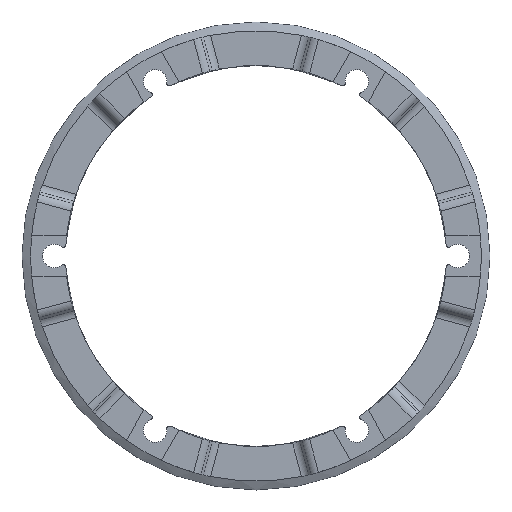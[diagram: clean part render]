
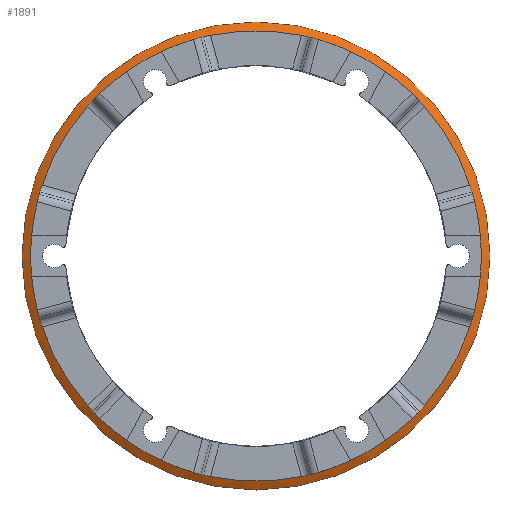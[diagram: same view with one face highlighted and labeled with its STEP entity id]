
A CAD part, top view. The second image highlights one B-rep face of the part: STEP entity #1891.
In plain terms, the highlighted conical face has half-angle 63.435 degrees and reference radius 38.5 mm.
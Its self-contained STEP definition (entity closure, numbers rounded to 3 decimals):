
#12=CONICAL_SURFACE('',#2108,38.5,1.107);
#146=CIRCLE('',#1998,38.5);
#153=CIRCLE('',#2006,38.5);
#154=CIRCLE('',#2008,38.5);
#161=CIRCLE('',#2016,38.5);
#162=CIRCLE('',#2018,38.5);
#169=CIRCLE('',#2026,38.5);
#170=CIRCLE('',#2028,38.5);
#177=CIRCLE('',#2036,38.5);
#178=CIRCLE('',#2038,38.5);
#184=CIRCLE('',#2045,38.5);
#187=CIRCLE('',#2049,38.5);
#188=CIRCLE('',#2051,38.5);
#229=CIRCLE('',#2109,40.);
#230=CIRCLE('',#2110,38.5);
#231=CIRCLE('',#2111,38.5);
#232=CIRCLE('',#2112,38.5);
#233=CIRCLE('',#2113,38.5);
#234=CIRCLE('',#2114,38.5);
#235=CIRCLE('',#2115,38.5);
#236=CIRCLE('',#2116,38.5);
#237=CIRCLE('',#2117,38.5);
#238=CIRCLE('',#2118,38.5);
#239=CIRCLE('',#2119,38.5);
#240=CIRCLE('',#2120,38.5);
#241=CIRCLE('',#2121,38.5);
#433=ORIENTED_EDGE('',*,*,#1017,.F.);
#434=ORIENTED_EDGE('',*,*,#1018,.T.);
#435=ORIENTED_EDGE('',*,*,#925,.T.);
#436=ORIENTED_EDGE('',*,*,#1019,.F.);
#437=ORIENTED_EDGE('',*,*,#922,.T.);
#438=ORIENTED_EDGE('',*,*,#1020,.T.);
#439=ORIENTED_EDGE('',*,*,#861,.T.);
#440=ORIENTED_EDGE('',*,*,#1021,.T.);
#441=ORIENTED_EDGE('',*,*,#870,.T.);
#442=ORIENTED_EDGE('',*,*,#1022,.T.);
#443=ORIENTED_EDGE('',*,*,#873,.T.);
#444=ORIENTED_EDGE('',*,*,#1023,.T.);
#445=ORIENTED_EDGE('',*,*,#882,.T.);
#446=ORIENTED_EDGE('',*,*,#1024,.T.);
#447=ORIENTED_EDGE('',*,*,#885,.T.);
#448=ORIENTED_EDGE('',*,*,#1025,.T.);
#449=ORIENTED_EDGE('',*,*,#894,.T.);
#450=ORIENTED_EDGE('',*,*,#1026,.T.);
#451=ORIENTED_EDGE('',*,*,#897,.T.);
#452=ORIENTED_EDGE('',*,*,#1027,.T.);
#453=ORIENTED_EDGE('',*,*,#906,.T.);
#454=ORIENTED_EDGE('',*,*,#1028,.T.);
#455=ORIENTED_EDGE('',*,*,#909,.T.);
#456=ORIENTED_EDGE('',*,*,#1029,.T.);
#457=ORIENTED_EDGE('',*,*,#916,.T.);
#861=EDGE_CURVE('',#1164,#1162,#146,.T.);
#870=EDGE_CURVE('',#1173,#1172,#153,.T.);
#873=EDGE_CURVE('',#1176,#1174,#154,.T.);
#882=EDGE_CURVE('',#1185,#1184,#161,.T.);
#885=EDGE_CURVE('',#1188,#1186,#162,.T.);
#894=EDGE_CURVE('',#1197,#1196,#169,.T.);
#897=EDGE_CURVE('',#1200,#1198,#170,.T.);
#906=EDGE_CURVE('',#1209,#1208,#177,.T.);
#909=EDGE_CURVE('',#1212,#1210,#178,.T.);
#916=EDGE_CURVE('',#1218,#1219,#184,.T.);
#922=EDGE_CURVE('',#1225,#1224,#187,.T.);
#925=EDGE_CURVE('',#1228,#1226,#188,.T.);
#1017=EDGE_CURVE('',#1299,#1299,#229,.T.);
#1018=EDGE_CURVE('',#1219,#1228,#230,.T.);
#1019=EDGE_CURVE('',#1225,#1226,#231,.T.);
#1020=EDGE_CURVE('',#1224,#1164,#232,.T.);
#1021=EDGE_CURVE('',#1162,#1173,#233,.T.);
#1022=EDGE_CURVE('',#1172,#1176,#234,.T.);
#1023=EDGE_CURVE('',#1174,#1185,#235,.T.);
#1024=EDGE_CURVE('',#1184,#1188,#236,.T.);
#1025=EDGE_CURVE('',#1186,#1197,#237,.T.);
#1026=EDGE_CURVE('',#1196,#1200,#238,.T.);
#1027=EDGE_CURVE('',#1198,#1209,#239,.T.);
#1028=EDGE_CURVE('',#1208,#1212,#240,.T.);
#1029=EDGE_CURVE('',#1210,#1218,#241,.T.);
#1162=VERTEX_POINT('',#2857);
#1164=VERTEX_POINT('',#2860);
#1172=VERTEX_POINT('',#2877);
#1173=VERTEX_POINT('',#2879);
#1174=VERTEX_POINT('',#2883);
#1176=VERTEX_POINT('',#2886);
#1184=VERTEX_POINT('',#2903);
#1185=VERTEX_POINT('',#2905);
#1186=VERTEX_POINT('',#2909);
#1188=VERTEX_POINT('',#2912);
#1196=VERTEX_POINT('',#2929);
#1197=VERTEX_POINT('',#2931);
#1198=VERTEX_POINT('',#2935);
#1200=VERTEX_POINT('',#2938);
#1208=VERTEX_POINT('',#2955);
#1209=VERTEX_POINT('',#2957);
#1210=VERTEX_POINT('',#2961);
#1212=VERTEX_POINT('',#2964);
#1218=VERTEX_POINT('',#2978);
#1219=VERTEX_POINT('',#2979);
#1224=VERTEX_POINT('',#2990);
#1225=VERTEX_POINT('',#2992);
#1226=VERTEX_POINT('',#2996);
#1228=VERTEX_POINT('',#2999);
#1299=VERTEX_POINT('',#3229);
#1615=EDGE_LOOP('',(#433));
#1616=EDGE_LOOP('',(#434,#435,#436,#437,#438,#439,#440,#441,#442,#443,#444,
#445,#446,#447,#448,#449,#450,#451,#452,#453,#454,#455,#456,#457));
#1729=FACE_BOUND('',#1615,.T.);
#1730=FACE_BOUND('',#1616,.T.);
#1891=ADVANCED_FACE('',(#1729,#1730),#12,.T.);
#1998=AXIS2_PLACEMENT_3D('',#2859,#2247,#2248);
#2006=AXIS2_PLACEMENT_3D('',#2878,#2265,#2266);
#2008=AXIS2_PLACEMENT_3D('',#2885,#2271,#2272);
#2016=AXIS2_PLACEMENT_3D('',#2904,#2289,#2290);
#2018=AXIS2_PLACEMENT_3D('',#2911,#2295,#2296);
#2026=AXIS2_PLACEMENT_3D('',#2930,#2313,#2314);
#2028=AXIS2_PLACEMENT_3D('',#2937,#2319,#2320);
#2036=AXIS2_PLACEMENT_3D('',#2956,#2337,#2338);
#2038=AXIS2_PLACEMENT_3D('',#2963,#2343,#2344);
#2045=AXIS2_PLACEMENT_3D('',#2977,#2358,#2359);
#2049=AXIS2_PLACEMENT_3D('',#2991,#2369,#2370);
#2051=AXIS2_PLACEMENT_3D('',#2998,#2375,#2376);
#2108=AXIS2_PLACEMENT_3D('',#3227,#2510,#2511);
#2109=AXIS2_PLACEMENT_3D('',#3228,#2512,#2513);
#2110=AXIS2_PLACEMENT_3D('',#3230,#2514,#2515);
#2111=AXIS2_PLACEMENT_3D('',#3231,#2516,#2517);
#2112=AXIS2_PLACEMENT_3D('',#3232,#2518,#2519);
#2113=AXIS2_PLACEMENT_3D('',#3233,#2520,#2521);
#2114=AXIS2_PLACEMENT_3D('',#3234,#2522,#2523);
#2115=AXIS2_PLACEMENT_3D('',#3235,#2524,#2525);
#2116=AXIS2_PLACEMENT_3D('',#3236,#2526,#2527);
#2117=AXIS2_PLACEMENT_3D('',#3237,#2528,#2529);
#2118=AXIS2_PLACEMENT_3D('',#3238,#2530,#2531);
#2119=AXIS2_PLACEMENT_3D('',#3239,#2532,#2533);
#2120=AXIS2_PLACEMENT_3D('',#3240,#2534,#2535);
#2121=AXIS2_PLACEMENT_3D('',#3241,#2536,#2537);
#2247=DIRECTION('',(0.,0.,-1.));
#2248=DIRECTION('',(-1.,0.,0.));
#2265=DIRECTION('',(0.,0.,-1.));
#2266=DIRECTION('',(-1.,0.,0.));
#2271=DIRECTION('',(0.,0.,-1.));
#2272=DIRECTION('',(-1.,0.,0.));
#2289=DIRECTION('',(0.,0.,-1.));
#2290=DIRECTION('',(-1.,0.,0.));
#2295=DIRECTION('',(0.,0.,-1.));
#2296=DIRECTION('',(-1.,0.,0.));
#2313=DIRECTION('',(0.,0.,-1.));
#2314=DIRECTION('',(-1.,0.,0.));
#2319=DIRECTION('',(0.,0.,-1.));
#2320=DIRECTION('',(-1.,0.,0.));
#2337=DIRECTION('',(0.,0.,-1.));
#2338=DIRECTION('',(-1.,0.,0.));
#2343=DIRECTION('',(0.,0.,-1.));
#2344=DIRECTION('',(-1.,0.,0.));
#2358=DIRECTION('',(0.,0.,-1.));
#2359=DIRECTION('',(-1.,0.,0.));
#2369=DIRECTION('',(0.,0.,-1.));
#2370=DIRECTION('',(-1.,0.,0.));
#2375=DIRECTION('',(0.,0.,-1.));
#2376=DIRECTION('',(-1.,0.,0.));
#2510=DIRECTION('',(0.,0.,-1.));
#2511=DIRECTION('',(-1.,0.,0.));
#2512=DIRECTION('',(0.,0.,-1.));
#2513=DIRECTION('',(-1.,0.,0.));
#2514=DIRECTION('',(0.,0.,-1.));
#2515=DIRECTION('',(-1.,0.,0.));
#2516=DIRECTION('',(0.,0.,1.));
#2517=DIRECTION('',(-1.,0.,0.));
#2518=DIRECTION('',(0.,0.,-1.));
#2519=DIRECTION('',(-1.,0.,0.));
#2520=DIRECTION('',(0.,0.,-1.));
#2521=DIRECTION('',(-1.,0.,0.));
#2522=DIRECTION('',(0.,0.,-1.));
#2523=DIRECTION('',(-1.,0.,0.));
#2524=DIRECTION('',(0.,0.,-1.));
#2525=DIRECTION('',(-1.,0.,0.));
#2526=DIRECTION('',(0.,0.,-1.));
#2527=DIRECTION('',(-1.,0.,0.));
#2528=DIRECTION('',(0.,0.,-1.));
#2529=DIRECTION('',(-1.,0.,0.));
#2530=DIRECTION('',(0.,0.,-1.));
#2531=DIRECTION('',(-1.,0.,0.));
#2532=DIRECTION('',(0.,0.,-1.));
#2533=DIRECTION('',(-1.,0.,0.));
#2534=DIRECTION('',(0.,0.,-1.));
#2535=DIRECTION('',(-1.,0.,0.));
#2536=DIRECTION('',(0.,0.,-1.));
#2537=DIRECTION('',(-1.,0.,0.));
#2857=CARTESIAN_POINT('',(16.185,-34.933,1.5));
#2859=CARTESIAN_POINT('',(0.,0.,1.5));
#2860=CARTESIAN_POINT('',(22.16,-31.483,1.5));
#2877=CARTESIAN_POINT('',(-7.779,-37.706,1.5));
#2878=CARTESIAN_POINT('',(0.,0.,1.5));
#2879=CARTESIAN_POINT('',(7.779,-37.706,1.5));
#2883=CARTESIAN_POINT('',(-22.16,-31.483,1.5));
#2885=CARTESIAN_POINT('',(0.,0.,1.5));
#2886=CARTESIAN_POINT('',(-16.185,-34.933,1.5));
#2903=CARTESIAN_POINT('',(-36.544,-12.117,1.5));
#2904=CARTESIAN_POINT('',(0.,0.,1.5));
#2905=CARTESIAN_POINT('',(-28.765,-25.589,1.5));
#2909=CARTESIAN_POINT('',(-38.345,3.45,1.5));
#2911=CARTESIAN_POINT('',(0.,0.,1.5));
#2912=CARTESIAN_POINT('',(-38.345,-3.45,1.5));
#2929=CARTESIAN_POINT('',(-28.765,25.589,1.5));
#2930=CARTESIAN_POINT('',(0.,0.,1.5));
#2931=CARTESIAN_POINT('',(-36.544,12.117,1.5));
#2935=CARTESIAN_POINT('',(-16.185,34.933,1.5));
#2937=CARTESIAN_POINT('',(0.,0.,1.5));
#2938=CARTESIAN_POINT('',(-22.16,31.483,1.5));
#2955=CARTESIAN_POINT('',(7.779,37.706,1.5));
#2956=CARTESIAN_POINT('',(0.,0.,1.5));
#2957=CARTESIAN_POINT('',(-7.779,37.706,1.5));
#2961=CARTESIAN_POINT('',(22.16,31.483,1.5));
#2963=CARTESIAN_POINT('',(0.,0.,1.5));
#2964=CARTESIAN_POINT('',(16.185,34.933,1.5));
#2977=CARTESIAN_POINT('',(0.,0.,1.5));
#2978=CARTESIAN_POINT('',(28.765,25.589,1.5));
#2979=CARTESIAN_POINT('',(36.544,12.117,1.5));
#2990=CARTESIAN_POINT('',(28.765,-25.589,1.5));
#2991=CARTESIAN_POINT('',(0.,0.,1.5));
#2992=CARTESIAN_POINT('',(36.544,-12.117,1.5));
#2996=CARTESIAN_POINT('',(38.345,-3.45,1.5));
#2998=CARTESIAN_POINT('',(0.,0.,1.5));
#2999=CARTESIAN_POINT('',(38.345,3.45,1.5));
#3227=CARTESIAN_POINT('',(0.,0.,1.5));
#3228=CARTESIAN_POINT('',(0.,0.,0.75));
#3229=CARTESIAN_POINT('',(-40.,0.,0.75));
#3230=CARTESIAN_POINT('',(0.,0.,1.5));
#3231=CARTESIAN_POINT('',(0.,0.,1.5));
#3232=CARTESIAN_POINT('',(0.,0.,1.5));
#3233=CARTESIAN_POINT('',(0.,0.,1.5));
#3234=CARTESIAN_POINT('',(0.,0.,1.5));
#3235=CARTESIAN_POINT('',(0.,0.,1.5));
#3236=CARTESIAN_POINT('',(0.,0.,1.5));
#3237=CARTESIAN_POINT('',(0.,0.,1.5));
#3238=CARTESIAN_POINT('',(0.,0.,1.5));
#3239=CARTESIAN_POINT('',(0.,0.,1.5));
#3240=CARTESIAN_POINT('',(0.,0.,1.5));
#3241=CARTESIAN_POINT('',(0.,0.,1.5));
